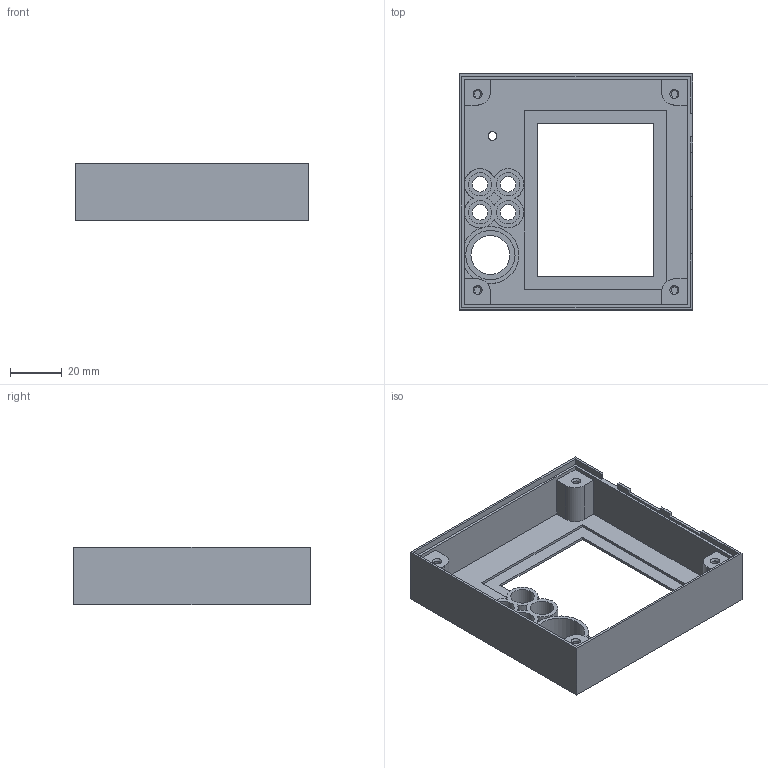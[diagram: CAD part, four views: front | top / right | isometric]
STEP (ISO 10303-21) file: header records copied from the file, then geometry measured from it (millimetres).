
FILE_DESCRIPTION(('STEP AP203'), '1');
FILE_NAME('ﾋﾈﾖﾅﾂﾀﾟ ﾑﾒﾎﾐﾎﾍﾀ', '', ('UNSPECIFIED'), ('UNSPECIFIED'), 'C3D Converter', 'C3D Toolkit', '');
FILE_SCHEMA(('CONFIG_CONTROL_DESIGN'));
Length unit declared in the file: millimetre
Bounding box: 90 x 91 x 22 mm (x, y, z)
Volume: 31019.5 mm3; surface area: 30114.8 mm2
Topology: 1 solids, 1 shells, 486 faces, 1297 edges, 862 vertices
Faces by surface type: plane 257, extrusion 194, cylinder 31, cone 4
Full cylindrical faces by diameter (mm): 2.5 x4, 3.4 x1, 6 x4, 9 x4, 15 x1, 19 x1
Entity records: 15229 total; most frequent: CARTESIAN_POINT 3791, ORIENTED_EDGE 2556, DIRECTION 1741, EDGE_CURVE 1278, VECTOR 1013, VERTEX_POINT 862, LINE 819, B_SPLINE_CURVE_WITH_KNOTS 582
